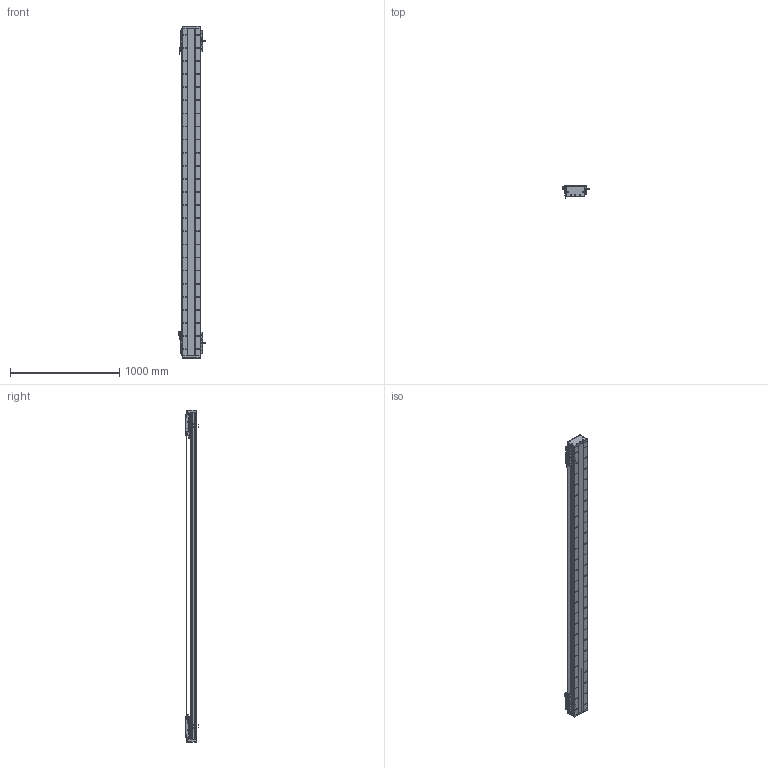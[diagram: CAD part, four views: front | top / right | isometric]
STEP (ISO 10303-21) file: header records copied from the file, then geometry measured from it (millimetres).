
FILE_DESCRIPTION (( 'STEP AP203' ), '1' );
FILE_NAME ('DA-C165-2-C2-T2540-C010-0.2 直线电机.STEP', '2023-05-11T08:29:55', ( '微软用户' ), ( '微软中国' ), 'SwSTEP 2.0', 'SolidWorks 2019', '' );
FILE_SCHEMA (( 'CONFIG_CONTROL_DESIGN' ));
Length unit declared in the file: millimetre
Products named in the file (22): 复件 DA126-GYP-ZJ-00 中间光电感应片^DA-C165-C2-T-C010-0.2-N 直线电机; IU-CU165-L 菁釱絳寢; DA-C165-2-C2-T2540-C010-0.2 眻盄萇儂; 复件 DA165-GDLK-00 钢带拉块^复件 CU165钢带组件_DA-C165-C2-T-C010-0.2-N 直线电机; 复件 XD-U-02L 磁栅尺^DA-C165-C2-T-C010-0.2-N 直线电机_T; 复件 DA165-GYP-00 光电感应片^DA-C165-C2-T-C010-0.2-N 直线电机; 复件 DMA-010-0.2 读数头^DA-C165-C2-T-C010-0.2-N 直线电机; 葩璃 DA95-GT-T-00^IU-CU165-L 菁釱絳寢_T; 葩璃 PM-T45^DA-C165-C2-T-C010-0.2-N 眻盄萇儂; 复件 DKW-HXJ-JY-00 缓冲橡胶^DA-C165-C2-T-C010-0.2-N 直线电机; 复件 DA165-GD-1860-002-00 钢带盖板^复件 CU165钢带组件_DA-C165-C2-T-C010-0.2-N 直线电机; 复件 DA165-GDYK-00 钢带压块^复件 CU165钢带组件_DA-C165-C2-T-C010-0.2-N 直线电机; 复件 CU165钢带组件^DA-C165-C2-T-C010-0.2-N 直线电机; 葩璃 PM-Y45^DA-C165-C2-T-C010-0.2-N 眻盄萇儂; 葩璃 CKM01-W075-TRL^DA-C165-C2-T-C010-0.2-N 眻盄萇儂; IU-CU165-L-00 菁釱_L3000; 复件 DA95-HXJ-00 缓冲橡胶^DA-C165-C2-T-C010-0.2-N 直线电机; 复件 CKM02-W075-C1C2-TP-3.0 一体电机-C2^DA-C165-C2-T-C010-0.2-N 直线电机; 复件 六角薄螺母 M3^DA-C165-C2-T-C010-0.2-N 直线电机_GB_FASTENER_NUT_STNAB M3-C; 珨极趙賑雄怢啣wf-C2; 复件 DA165-GD-DG-H-00 端盖^复件 CU165钢带组件_DA-C165-C2-T-C010-0.2-N 直线电机; 复件 66338-1000-006-00 光电感应块^DA-C165-C2-T-C010-0.2-N 直线电机
Assembly tree (43 placements, depth 3):
  DA-C165-2-C2-T2540-C010-0.2 眻盄萇儂
    IU-CU165-L 菁釱絳寢
      IU-CU165-L-00 菁釱_L3000
      葩璃 DA95-GT-T-00^IU-CU165-L 菁釱絳寢_T  x4
    复件 XD-U-02L 磁栅尺^DA-C165-C2-T-C010-0.2-N 直线电机_T
    葩璃 PM-T45^DA-C165-C2-T-C010-0.2-N 眻盄萇儂  x4
    葩璃 CKM01-W075-TRL^DA-C165-C2-T-C010-0.2-N 眻盄萇儂
    复件 CU165钢带组件^DA-C165-C2-T-C010-0.2-N 直线电机
      复件 DA165-GD-DG-H-00 端盖^复件 CU165钢带组件_DA-C165-C2-T-C010-0.2-N 直线电机  x2
      复件 DA165-GDYK-00 钢带压块^复件 CU165钢带组件_DA-C165-C2-T-C010-0.2-N 直线电机  x2
      复件 DA165-GD-1860-002-00 钢带盖板^复件 CU165钢带组件_DA-C165-C2-T-C010-0.2-N 直线电机
      复件 DA165-GDLK-00 钢带拉块^复件 CU165钢带组件_DA-C165-C2-T-C010-0.2-N 直线电机  x2
    复件 DA95-HXJ-00 缓冲橡胶^DA-C165-C2-T-C010-0.2-N 直线电机  x4
    复件 CKM02-W075-C1C2-TP-3.0 一体电机-C2^DA-C165-C2-T-C010-0.2-N 直线电机  x2
    复件 DMA-010-0.2 读数头^DA-C165-C2-T-C010-0.2-N 直线电机  x2
    复件 DA165-GYP-00 光电感应片^DA-C165-C2-T-C010-0.2-N 直线电机  x2
    复件 66338-1000-006-00 光电感应块^DA-C165-C2-T-C010-0.2-N 直线电机
    葩璃 PM-Y45^DA-C165-C2-T-C010-0.2-N 眻盄萇儂
    复件 DA126-GYP-ZJ-00 中间光电感应片^DA-C165-C2-T-C010-0.2-N 直线电机
    复件 DKW-HXJ-JY-00 缓冲橡胶^DA-C165-C2-T-C010-0.2-N 直线电机  x2
    复件 六角薄螺母 M3^DA-C165-C2-T-C010-0.2-N 直线电机_GB_FASTENER_NUT_STNAB M3-C  x6
    珨极趙賑雄怢啣wf-C2  x2
Bounding box: 247.2 x 111.45 x 3040 mm (x, y, z)
Volume: 18177466.3 mm3; surface area: 5332929.5 mm2
Topology: 119 solids, 119 shells, 5855 faces, 16636 edges, 10530 vertices
Faces by surface type: cylinder 3244, plane 1819, cone 704, torus 80, sphere 8
Entity records: 146134 total; most frequent: CARTESIAN_POINT 39895, ORIENTED_EDGE 22216, DIRECTION 21192, EDGE_CURVE 11108, AXIS2_PLACEMENT_3D 8070, VERTEX_POINT 7267, LINE 5052, VECTOR 5052
